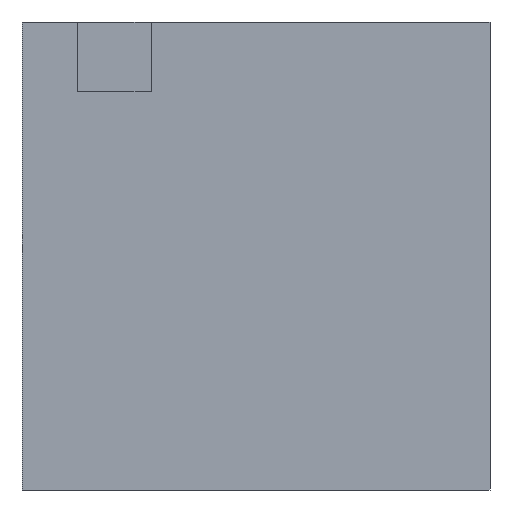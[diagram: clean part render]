
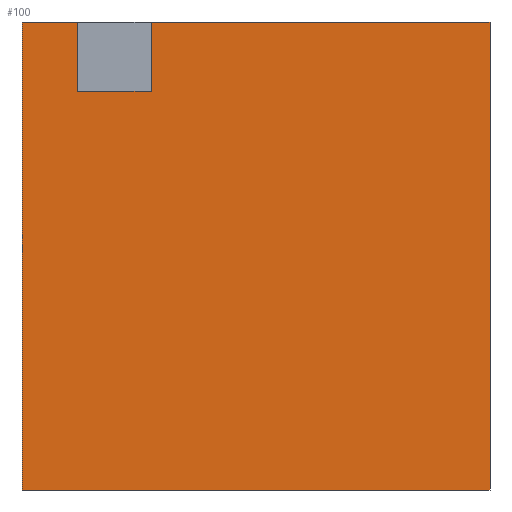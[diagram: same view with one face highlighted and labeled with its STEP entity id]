
A CAD part, front view. The second image highlights one B-rep face of the part: STEP entity #100.
In plain terms, the highlighted planar face has unit normal (0, -1, 0).
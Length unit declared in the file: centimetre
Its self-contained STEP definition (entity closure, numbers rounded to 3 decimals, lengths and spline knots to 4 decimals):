
#16 = VECTOR ( 'NONE', #172, 100. ) ;
#65 = EDGE_CURVE ( 'NONE', #546, #398, #97, .T. ) ;
#94 = VECTOR ( 'NONE', #311, 100. ) ;
#96 = CARTESIAN_POINT ( 'NONE',  ( 276.1371, 0., 851.8108 ) ) ;
#97 = LINE ( 'NONE', #438, #94 ) ;
#100 = ADVANCED_FACE ( 'NONE', ( #649 ), #1213, .F. ) ;
#101 = ORIENTED_EDGE ( 'NONE', *, *, #1274, .F. ) ;
#112 = ORIENTED_EDGE ( 'NONE', *, *, #867, .T. ) ;
#126 = CARTESIAN_POINT ( 'NONE',  ( 1000., 0., 1000. ) ) ;
#142 = DIRECTION ( 'NONE',  ( 0., 0., -1. ) ) ;
#165 = CARTESIAN_POINT ( 'NONE',  ( 0., 0., 1000. ) ) ;
#172 = DIRECTION ( 'NONE',  ( 1., 0., 0. ) ) ;
#221 = DIRECTION ( 'NONE',  ( 0., 1., 0. ) ) ;
#229 = CARTESIAN_POINT ( 'NONE',  ( 0., 0., 1000. ) ) ;
#251 = LINE ( 'NONE', #352, #1288 ) ;
#275 = CARTESIAN_POINT ( 'NONE',  ( 0., 0., 1000. ) ) ;
#300 = VERTEX_POINT ( 'NONE', #1342 ) ;
#308 = EDGE_CURVE ( 'NONE', #1347, #300, #703, .T. ) ;
#311 = DIRECTION ( 'NONE',  ( 0., 0., -1. ) ) ;
#348 = EDGE_LOOP ( 'NONE', ( #820, #1036, #101, #448, #112, #452, #1076, #668 ) ) ;
#352 = CARTESIAN_POINT ( 'NONE',  ( 1000., 0., 1000. ) ) ;
#365 = DIRECTION ( 'NONE',  ( 0., 0., 1. ) ) ;
#398 = VERTEX_POINT ( 'NONE', #715 ) ;
#421 = DIRECTION ( 'NONE',  ( 0., 0., 1. ) ) ;
#436 = DIRECTION ( 'NONE',  ( 0., 0., -1. ) ) ;
#438 = CARTESIAN_POINT ( 'NONE',  ( 118.0214, 0., 851.8108 ) ) ;
#439 = CARTESIAN_POINT ( 'NONE',  ( 0., 0., 0. ) ) ;
#448 = ORIENTED_EDGE ( 'NONE', *, *, #1070, .T. ) ;
#452 = ORIENTED_EDGE ( 'NONE', *, *, #1136, .F. ) ;
#475 = VECTOR ( 'NONE', #1340, 100. ) ;
#512 = VERTEX_POINT ( 'NONE', #636 ) ;
#546 = VERTEX_POINT ( 'NONE', #900 ) ;
#565 = LINE ( 'NONE', #229, #1091 ) ;
#600 = CARTESIAN_POINT ( 'NONE',  ( 118.0214, 0., 851.8108 ) ) ;
#636 = CARTESIAN_POINT ( 'NONE',  ( 0., 0., 1000. ) ) ;
#649 = FACE_OUTER_BOUND ( 'NONE', #348, .T. ) ;
#658 = CARTESIAN_POINT ( 'NONE',  ( 1000., 0., 0. ) ) ;
#668 = ORIENTED_EDGE ( 'NONE', *, *, #308, .F. ) ;
#703 = LINE ( 'NONE', #998, #733 ) ;
#715 = CARTESIAN_POINT ( 'NONE',  ( 118.0214, 0., 851.8108 ) ) ;
#733 = VECTOR ( 'NONE', #365, 100. ) ;
#791 = DIRECTION ( 'NONE',  ( 1., 0., 0. ) ) ;
#820 = ORIENTED_EDGE ( 'NONE', *, *, #1229, .F. ) ;
#822 = LINE ( 'NONE', #275, #1373 ) ;
#854 = CARTESIAN_POINT ( 'NONE',  ( 0., 0., 1000. ) ) ;
#867 = EDGE_CURVE ( 'NONE', #901, #965, #1395, .T. ) ;
#900 = CARTESIAN_POINT ( 'NONE',  ( 118.0214, 0., 1000. ) ) ;
#901 = VERTEX_POINT ( 'NONE', #439 ) ;
#921 = VECTOR ( 'NONE', #791, 100. ) ;
#923 = LINE ( 'NONE', #165, #475 ) ;
#965 = VERTEX_POINT ( 'NONE', #658 ) ;
#998 = CARTESIAN_POINT ( 'NONE',  ( 276.1371, 0., 851.8108 ) ) ;
#1027 = DIRECTION ( 'NONE',  ( 1., 0., 0. ) ) ;
#1032 = LINE ( 'NONE', #600, #16 ) ;
#1036 = ORIENTED_EDGE ( 'NONE', *, *, #65, .F. ) ;
#1070 = EDGE_CURVE ( 'NONE', #512, #901, #565, .T. ) ;
#1076 = ORIENTED_EDGE ( 'NONE', *, *, #1265, .F. ) ;
#1091 = VECTOR ( 'NONE', #436, 100. ) ;
#1124 = VERTEX_POINT ( 'NONE', #126 ) ;
#1136 = EDGE_CURVE ( 'NONE', #1124, #965, #251, .T. ) ;
#1203 = CARTESIAN_POINT ( 'NONE',  ( 0., 0., 0. ) ) ;
#1213 = PLANE ( 'NONE',  #1217 ) ;
#1217 = AXIS2_PLACEMENT_3D ( 'NONE', #854, #221, #421 ) ;
#1229 = EDGE_CURVE ( 'NONE', #398, #1347, #1032, .T. ) ;
#1265 = EDGE_CURVE ( 'NONE', #300, #1124, #923, .T. ) ;
#1274 = EDGE_CURVE ( 'NONE', #512, #546, #822, .T. ) ;
#1288 = VECTOR ( 'NONE', #142, 100. ) ;
#1340 = DIRECTION ( 'NONE',  ( 1., 0., 0. ) ) ;
#1342 = CARTESIAN_POINT ( 'NONE',  ( 276.1371, 0., 1000. ) ) ;
#1347 = VERTEX_POINT ( 'NONE', #96 ) ;
#1373 = VECTOR ( 'NONE', #1027, 100. ) ;
#1395 = LINE ( 'NONE', #1203, #921 ) ;
